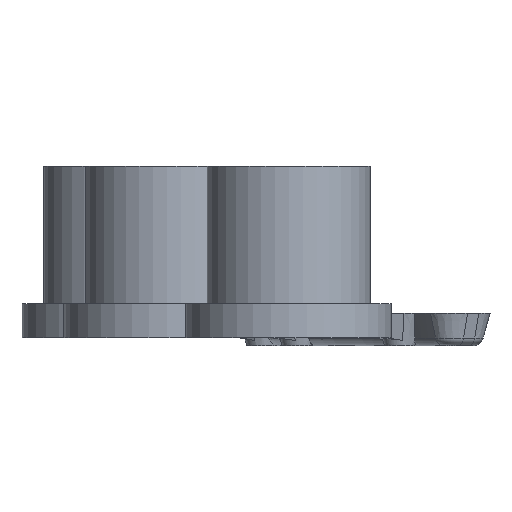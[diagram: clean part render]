
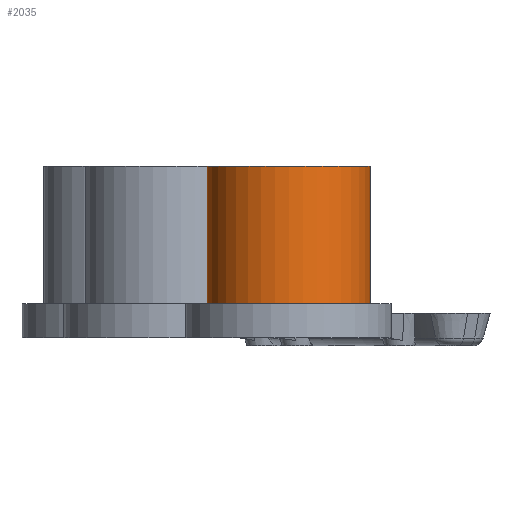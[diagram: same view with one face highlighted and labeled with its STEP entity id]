
A CAD part, left-side view. The second image highlights one B-rep face of the part: STEP entity #2035.
In plain terms, the highlighted cylindrical face has radius 6.045 mm (diameter 12.09 mm), a full revolution.
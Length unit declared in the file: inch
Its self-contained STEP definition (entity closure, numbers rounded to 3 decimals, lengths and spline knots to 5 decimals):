
#1978=CARTESIAN_POINT('',(-1.70746,-0.09523,-0.13822));
#1979=VERTEX_POINT('',#1978);
#1980=CARTESIAN_POINT('',(-1.46946,-0.09523,-0.13822));
#1981=DIRECTION('',(0.0,0.0,1.0));
#1982=DIRECTION('',(1.0,0.0,0.0));
#1983=AXIS2_PLACEMENT_3D('',#1980,#1981,#1982);
#1984=CIRCLE('',#1983,0.238);
#1985=EDGE_CURVE('',#1979,#1979,#1984,.T.);
#2016=CARTESIAN_POINT('',(-1.46946,-0.09523,-0.23822));
#2017=DIRECTION('',(0.0,0.0,1.0));
#2018=DIRECTION('',(1.0,0.0,0.0));
#2019=AXIS2_PLACEMENT_3D('',#2016,#2017,#2018);
#2020=CYLINDRICAL_SURFACE('',#2019,0.238);
#2021=ORIENTED_EDGE('',*,*,#1985,.T.);
#2022=EDGE_LOOP('',(#2021));
#2023=FACE_OUTER_BOUND('',#2022,.T.);
#2024=CARTESIAN_POINT('',(-1.23146,-0.09523,0.26178));
#2025=VERTEX_POINT('',#2024);
#2026=CARTESIAN_POINT('',(-1.46946,-0.09523,0.26178));
#2027=DIRECTION('',(0.0,0.0,-1.0));
#2028=DIRECTION('',(1.0,0.0,0.0));
#2029=AXIS2_PLACEMENT_3D('',#2026,#2027,#2028);
#2030=CIRCLE('',#2029,0.238);
#2031=EDGE_CURVE('',#2025,#2025,#2030,.T.);
#2032=ORIENTED_EDGE('',*,*,#2031,.T.);
#2033=EDGE_LOOP('',(#2032));
#2034=FACE_BOUND('',#2033,.T.);
#2035=ADVANCED_FACE('',(#2023,#2034),#2020,.T.);
